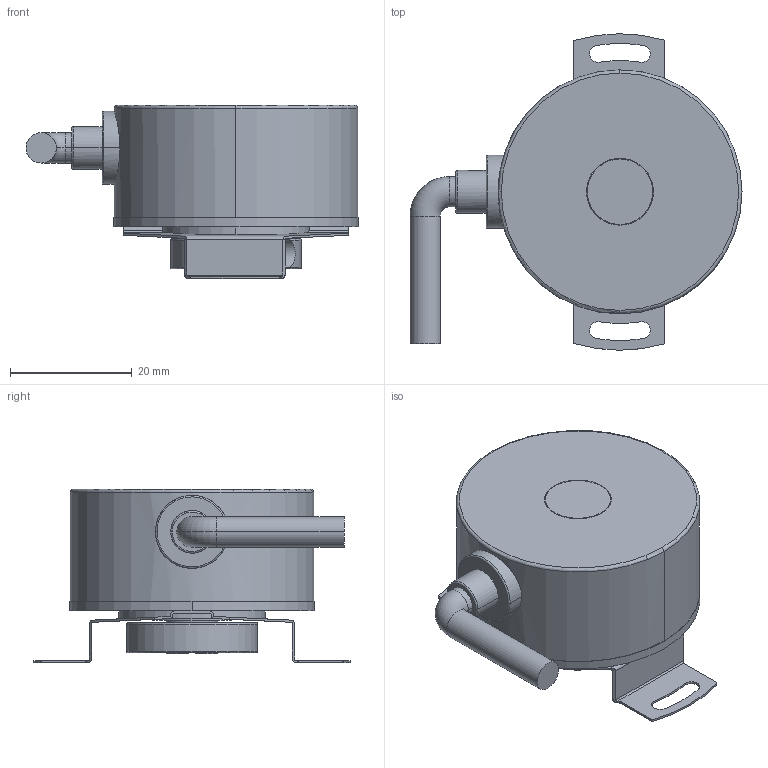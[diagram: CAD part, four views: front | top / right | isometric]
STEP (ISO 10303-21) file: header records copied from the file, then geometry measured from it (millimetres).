
FILE_DESCRIPTION((''),'2;1');
FILE_NAME('SE460400AB10030','2017-03-22T',('Matteo Maccalli'),(''),'PRO/ENGINEER BY PARAMETRIC TECHNOLOGY CORPORATION, 2006320','PRO/ENGINEER BY PARAMETRIC TECHNOLOGY CORPORATION, 2006320','');
FILE_SCHEMA(('AUTOMOTIVE_DESIGN_CC2 { 1 2 10303 214 -1 1 5 2 }'));
Length unit declared in the file: millimetre
Products named in the file (1): SE460400AB10030
Bounding box: 54.55 x 52 x 28.5 mm (x, y, z)
Volume: 10298.9 mm3; surface area: 14057.5 mm2
Topology: 1 solids, 1 shells, 172 faces, 491 edges, 329 vertices
Faces by surface type: cylinder 90, plane 72, torus 10
Entity records: 6083 total; most frequent: CARTESIAN_POINT 1454, ORIENTED_EDGE 982, DIRECTION 975, EDGE_CURVE 491, AXIS2_PLACEMENT_3D 374, VERTEX_POINT 329, VECTOR 227, LINE 227
